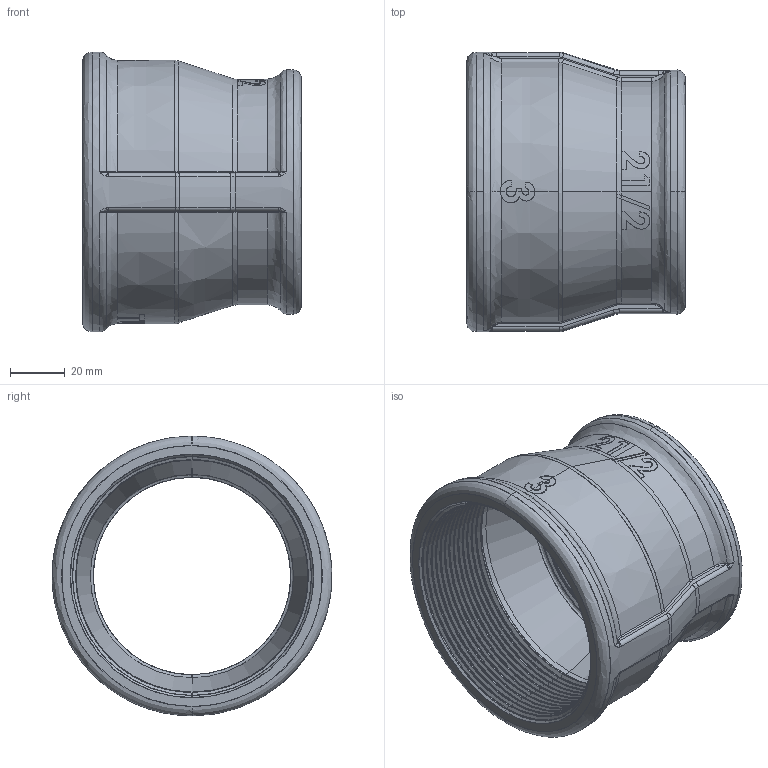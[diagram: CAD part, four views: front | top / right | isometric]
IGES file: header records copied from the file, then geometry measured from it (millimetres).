
Start section: SolidWorks IGES file using analytic representation for surfaces
Global section: file name: C:\Users\Joel Rosa\Desktop\Tubulação\12-32-OK\12-32-056.IGS; native system: SolidWorks 2011; preprocessor: SolidWorks 2011; author: Joel Rosa; date: 121209.022510; units: millimetre
Bounding box: 80 x 102.4 x 102.4 mm (x, y, z)
Surface area: 58141.4 mm2 (no closed solid volume)
Topology: 0 solids, 0 shells, 517 faces, 4525 edges, 4519 vertices
Faces by surface type: bspline 358, revolution 159
